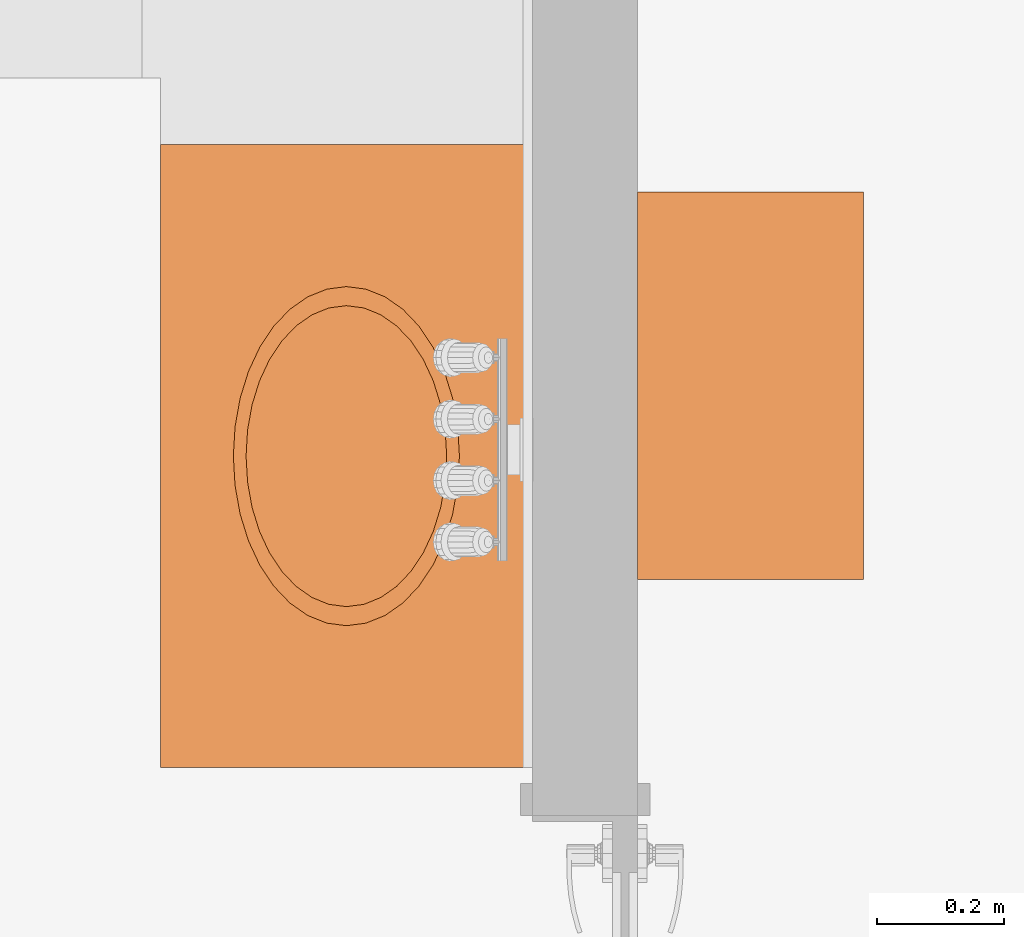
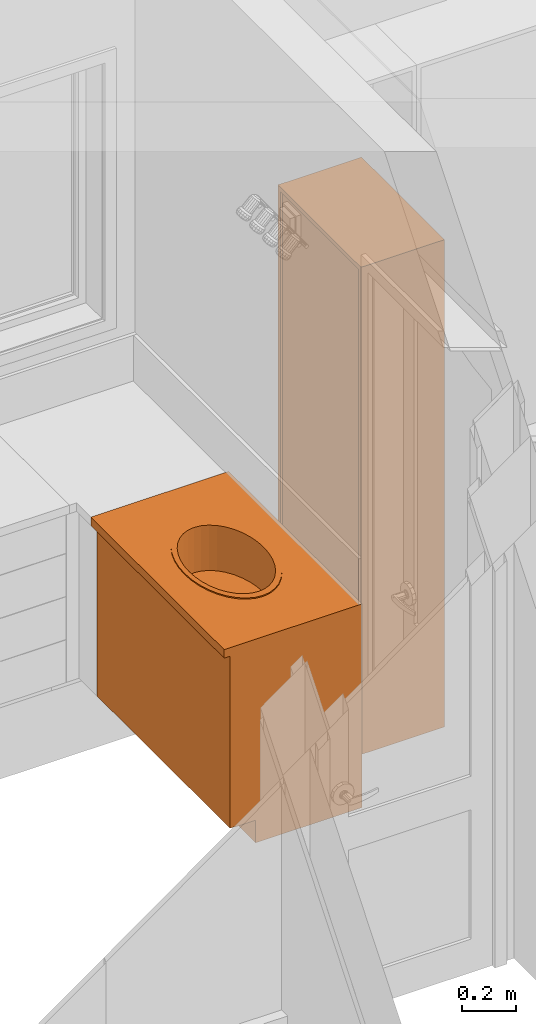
# One storey, part 70 of 77: 2 proxies.
"""IFC2X3 building model written with IfcOpenShell, lengths in inches."""

from ifc_helpers import new_model, entity, si_unit, converted_unit, derived_unit, money_unit, direction, frame, origin_with_axes, place, context, subcontext, project, spatial, open_shell, faceted_brep, surface_model, type_object, element, save


model = new_model("IFC2X3")

# Units and contexts
model_context = context("Model", 3, precision=0.000393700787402, world=origin_with_axes(), true_north=direction((0.0, 1.0)))
body_context = subcontext(model_context, "Body", "Model", "MODEL_VIEW")
ifc_project = project(units=[converted_unit("LENGTHUNIT", "INCH", entity("IfcPositiveLengthMeasure", 0.0254), si_unit("LENGTHUNIT", "METRE"), dimensions=[1, 0, 0, 0, 0, 0, 0]), converted_unit("AREAUNIT", "SQUARE_FOOT", entity("IfcPositiveLengthMeasure", 0.09290304), si_unit("AREAUNIT", "SQUARE_METRE"), dimensions=[2, 0, 0, 0, 0, 0, 0]), si_unit("PLANEANGLEUNIT", "RADIAN"), si_unit("SOLIDANGLEUNIT", "STERADIAN"), money_unit("USD"), converted_unit("TIMEUNIT", "Year", entity("IfcTimeMeasure", 31556926.0), si_unit("TIMEUNIT", "SECOND"), dimensions=[0, 0, 1, 0, 0, 0, 0]), si_unit("MASSUNIT", "GRAM", prefix="KILO"), si_unit("THERMODYNAMICTEMPERATUREUNIT", "DEGREE_CELSIUS"), si_unit("LUMINOUSINTENSITYUNIT", "LUMEN"), si_unit("ENERGYUNIT", "JOULE", prefix="MEGA"), derived_unit("THERMALCONDUCTANCEUNIT", [(si_unit("POWERUNIT", "WATT"), 1), (si_unit("LENGTHUNIT", "METRE"), -1), (si_unit("THERMODYNAMICTEMPERATUREUNIT", "KELVIN"), -1)]), derived_unit("SPECIFICHEATCAPACITYUNIT", [(si_unit("ENERGYUNIT", "JOULE"), 1), (si_unit("MASSUNIT", "GRAM", prefix="KILO"), -1), (si_unit("THERMODYNAMICTEMPERATUREUNIT", "KELVIN"), -1)]), derived_unit("MASSDENSITYUNIT", [(si_unit("MASSUNIT", "GRAM", prefix="KILO"), 1), (si_unit("VOLUMEUNIT", "CUBIC_METRE"), -1)])], contexts=[model_context])

# Site, building, storey
site_placement = place(None, origin_with_axes())
site = spatial("IfcSite", under=ifc_project, at=site_placement, Name="Site", CompositionType="ELEMENT")
building_placement = place(site_placement, origin_with_axes())
building = spatial("IfcBuilding", under=site, at=building_placement, Name="Building", CompositionType="ELEMENT")
storey_placement = place(building_placement, frame((0.0, 0.0, 127.952755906), z_axis=(0.0, 0.0, 1.0), x_axis=(1.0, 0.0, 0.0)))
storey = spatial("IfcBuildingStorey", under=building, at=storey_placement, Name="Second Floor", CompositionType="ELEMENT", Elevation=127.953)

# Proxies
building_element_proxy_type_1 = type_object("IfcBuildingElementProxyType", Name="Base Cabinet Block 25", PredefinedType="NOTDEFINED")
proxy_1_placement = place(storey_placement, frame((571.489644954, 555.816573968, 0.0), z_axis=(0.0, 0.0, 1.0), x_axis=(0.0, -1.0, 0.0)))
element("IfcBuildingElementProxy", 1, at=proxy_1_placement, inside=storey, type_object=building_element_proxy_type_1, Name="FU - 025", context=body_context, shape_type="SurfaceModel", body=[
    surface_model("IfcShellBasedSurfaceModel", [(28.6102362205, -11.5413385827, 28.1456692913), (28.4686612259, -10.4625321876, 28.1456692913), (28.4686612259, -10.4625321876, 35.9488188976), (28.6102362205, -11.5413385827, 35.9488188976), (28.4686612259, -12.6201449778, 28.1456692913), (28.0482379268, -13.6661723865, 28.1456692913), (27.3617406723, -14.6476377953, 28.1456692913), (26.4300283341, -15.5347198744, 28.1456692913), (25.2814105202, -16.3004650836, 28.1456692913), (23.9507874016, -16.9216066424, 28.1456692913), (22.4785892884, -17.3792714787, 28.1456692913), (20.9095481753, -17.6595536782, 28.1456692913), (19.2913385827, -17.7539370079, 28.1456692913), (17.67312899, -17.6595536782, 28.1456692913), (16.104087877, -17.3792714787, 28.1456692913), (14.6318897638, -16.9216066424, 28.1456692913), (13.3012666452, -16.3004650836, 28.1456692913), (12.1526488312, -15.5347198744, 28.1456692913), (11.2209364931, -14.6476377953, 28.1456692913), (10.5344392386, -13.6661723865, 28.1456692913), (10.1140159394, -12.6201449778, 28.1456692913), (9.97244094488, -11.5413385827, 28.1456692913), (10.1140159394, -10.4625321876, 28.1456692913), (10.5344392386, -9.41650477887, 28.1456692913), (11.2209364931, -8.43503937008, 28.1456692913), (12.1526488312, -7.547957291, 28.1456692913), (13.3012666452, -6.78221208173, 28.1456692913), (14.6318897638, -6.16107052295, 28.1456692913), (16.104087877, -5.70340568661, 28.1456692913), (17.67312899, -5.42312348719, 28.1456692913), (19.2913385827, -5.32874015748, 28.1456692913), (20.9095481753, -5.42312348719, 28.1456692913), (22.4785892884, -5.70340568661, 28.1456692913), (23.9507874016, -6.16107052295, 28.1456692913), (25.2814105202, -6.78221208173, 28.1456692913), (26.4300283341, -7.547957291, 28.1456692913), (27.3617406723, -8.43503937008, 28.1456692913), (28.0482379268, -9.41650477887, 28.1456692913), (28.0482379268, -9.41650477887, 35.9488188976), (28.4686612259, -12.6201449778, 35.9488188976), (28.0482379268, -13.6661723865, 35.9488188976), (27.3617406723, -14.6476377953, 35.9488188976), (26.4300283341, -15.5347198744, 35.9488188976), (25.2814105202, -16.3004650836, 35.9488188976), (23.9507874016, -16.9216066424, 35.9488188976), (22.4785892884, -17.3792714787, 35.9488188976), (20.9095481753, -17.6595536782, 35.9488188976), (19.2913385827, -17.7539370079, 35.9488188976), (17.67312899, -17.6595536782, 35.9488188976), (16.104087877, -17.3792714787, 35.9488188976), (14.6318897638, -16.9216066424, 35.9488188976), (13.3012666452, -16.3004650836, 35.9488188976), (12.1526488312, -15.5347198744, 35.9488188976), (11.2209364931, -14.6476377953, 35.9488188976), (10.5344392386, -13.6661723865, 35.9488188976), (10.1140159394, -12.6201449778, 35.9488188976), (9.97244094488, -11.5413385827, 35.9488188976), (10.1140159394, -10.4625321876, 35.9488188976), (10.5344392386, -9.41650477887, 35.9488188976), (11.2209364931, -8.43503937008, 35.9488188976), (12.1526488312, -7.547957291, 35.9488188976), (13.3012666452, -6.78221208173, 35.9488188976), (14.6318897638, -6.16107052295, 35.9488188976), (16.104087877, -5.70340568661, 35.9488188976), (17.67312899, -5.42312348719, 35.9488188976), (19.2913385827, -5.32874015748, 35.9488188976), (20.9095481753, -5.42312348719, 35.9488188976), (22.4785892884, -5.70340568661, 35.9488188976), (23.9507874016, -6.16107052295, 35.9488188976), (25.2814105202, -6.78221208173, 35.9488188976), (26.4300283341, -7.547957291, 35.9488188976), (27.3617406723, -8.43503937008, 35.9488188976)], [open_shell([[[0, 1, 2, 3]], [[0, 4, 5, 6, 7, 8, 9, 10, 11, 12, 13, 14, 15, 16, 17, 18, 19, 20, 21, 22, 23, 24, 25, 26, 27, 28, 29, 30, 31, 32, 33, 34, 35, 36, 37, 1]], [[1, 37, 38, 2]], [[4, 0, 3, 39]], [[5, 4, 39, 40]], [[6, 5, 40, 41]], [[7, 6, 41, 42]], [[8, 7, 42, 43]], [[9, 8, 43, 44]], [[10, 9, 44, 45]], [[11, 10, 45, 46]], [[12, 11, 46, 47]], [[13, 12, 47, 48]], [[14, 13, 48, 49]], [[15, 14, 49, 50]], [[16, 15, 50, 51]], [[17, 16, 51, 52]], [[18, 17, 52, 53]], [[19, 18, 53, 54]], [[20, 19, 54, 55]], [[21, 20, 55, 56]], [[22, 21, 56, 57]], [[23, 22, 57, 58]], [[24, 23, 58, 59]], [[25, 24, 59, 60]], [[26, 25, 60, 61]], [[27, 26, 61, 62]], [[28, 27, 62, 63]], [[29, 28, 63, 64]], [[30, 29, 64, 65]], [[31, 30, 65, 66]], [[32, 31, 66, 67]], [[33, 32, 67, 68]], [[34, 33, 68, 69]], [[35, 34, 69, 70]], [[36, 35, 70, 71]], [[37, 36, 71, 38]]])]),
    faceted_brep([(29.7913385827, -11.5413385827, 35.9488188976), (29.6318199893, -10.325801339, 35.9488188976), (29.6318199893, -10.325801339, 36.1456692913), (29.7913385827, -11.5413385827, 36.1456692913), (29.6318199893, -12.7568758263, 35.9488188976), (29.1581111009, -13.935479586, 35.9488188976), (28.3846053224, -15.0413385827, 35.9488188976), (27.3348052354, -16.0408518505, 35.9488188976), (26.0406084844, -16.9036496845, 35.9488188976), (24.5413385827, -17.6035164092, 35.9488188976), (22.8825500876, -18.1191869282, 35.9488188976), (21.1146444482, -18.4349928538, 35.9488188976), (19.2913385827, -18.5413385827, 35.9488188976), (17.4680327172, -18.4349928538, 35.9488188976), (15.7001270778, -18.1191869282, 35.9488188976), (14.0413385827, -17.6035164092, 35.9488188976), (12.542068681, -16.9036496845, 35.9488188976), (11.2478719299, -16.0408518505, 35.9488188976), (10.1980718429, -15.0413385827, 35.9488188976), (9.42456606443, -13.935479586, 35.9488188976), (8.95085717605, -12.7568758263, 35.9488188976), (8.79133858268, -11.5413385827, 35.9488188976), (8.95085717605, -10.325801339, 35.9488188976), (9.42456606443, -9.1471975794, 35.9488188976), (10.1980718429, -8.04133858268, 35.9488188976), (11.2478719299, -7.04182531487, 35.9488188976), (12.542068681, -6.17902748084, 35.9488188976), (14.0413385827, -5.47916075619, 35.9488188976), (15.7001270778, -4.96349023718, 35.9488188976), (17.4680327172, -4.64768431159, 35.9488188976), (19.2913385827, -4.54133858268, 35.9488188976), (21.1146444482, -4.64768431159, 35.9488188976), (22.8825500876, -4.96349023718, 35.9488188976), (24.5413385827, -5.47916075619, 35.9488188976), (26.0406084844, -6.17902748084, 35.9488188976), (27.3348052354, -7.04182531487, 35.9488188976), (28.3846053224, -8.04133858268, 35.9488188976), (29.1581111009, -9.1471975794, 35.9488188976), (28.6102362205, -11.5413385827, 35.9488188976), (28.4686612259, -10.4625321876, 35.9488188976), (28.0482379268, -9.41650477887, 35.9488188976), (27.3617406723, -8.43503937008, 35.9488188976), (26.4300283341, -7.547957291, 35.9488188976), (25.2814105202, -6.78221208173, 35.9488188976), (23.9507874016, -6.16107052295, 35.9488188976), (22.4785892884, -5.70340568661, 35.9488188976), (20.9095481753, -5.42312348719, 35.9488188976), (19.2913385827, -5.32874015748, 35.9488188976), (17.67312899, -5.42312348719, 35.9488188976), (16.104087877, -5.70340568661, 35.9488188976), (14.6318897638, -6.16107052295, 35.9488188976), (13.3012666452, -6.78221208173, 35.9488188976), (12.1526488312, -7.547957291, 35.9488188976), (11.2209364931, -8.43503937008, 35.9488188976), (10.5344392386, -9.41650477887, 35.9488188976), (10.1140159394, -10.4625321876, 35.9488188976), (9.97244094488, -11.5413385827, 35.9488188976), (10.1140159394, -12.6201449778, 35.9488188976), (10.5344392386, -13.6661723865, 35.9488188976), (11.2209364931, -14.6476377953, 35.9488188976), (12.1526488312, -15.5347198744, 35.9488188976), (13.3012666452, -16.3004650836, 35.9488188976), (14.6318897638, -16.9216066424, 35.9488188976), (16.104087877, -17.3792714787, 35.9488188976), (17.67312899, -17.6595536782, 35.9488188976), (19.2913385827, -17.7539370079, 35.9488188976), (20.9095481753, -17.6595536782, 35.9488188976), (22.4785892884, -17.3792714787, 35.9488188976), (23.9507874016, -16.9216066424, 35.9488188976), (25.2814105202, -16.3004650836, 35.9488188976), (26.4300283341, -15.5347198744, 35.9488188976), (27.3617406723, -14.6476377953, 35.9488188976), (28.0482379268, -13.6661723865, 35.9488188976), (28.4686612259, -12.6201449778, 35.9488188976), (29.1581111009, -9.1471975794, 36.1456692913), (28.3846053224, -8.04133858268, 36.1456692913), (27.3348052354, -7.04182531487, 36.1456692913), (26.0406084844, -6.17902748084, 36.1456692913), (24.5413385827, -5.47916075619, 36.1456692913), (22.8825500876, -4.96349023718, 36.1456692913), (21.1146444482, -4.64768431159, 36.1456692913), (19.2913385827, -4.54133858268, 36.1456692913), (17.4680327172, -4.64768431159, 36.1456692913), (15.7001270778, -4.96349023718, 36.1456692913), (14.0413385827, -5.47916075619, 36.1456692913), (12.542068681, -6.17902748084, 36.1456692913), (11.2478719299, -7.04182531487, 36.1456692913), (10.1980718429, -8.04133858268, 36.1456692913), (9.42456606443, -9.1471975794, 36.1456692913), (8.95085717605, -10.325801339, 36.1456692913), (8.79133858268, -11.5413385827, 36.1456692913), (8.95085717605, -12.7568758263, 36.1456692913), (9.42456606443, -13.935479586, 36.1456692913), (10.1980718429, -15.0413385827, 36.1456692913), (11.2478719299, -16.0408518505, 36.1456692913), (12.542068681, -16.9036496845, 36.1456692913), (14.0413385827, -17.6035164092, 36.1456692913), (15.7001270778, -18.1191869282, 36.1456692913), (17.4680327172, -18.4349928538, 36.1456692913), (19.2913385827, -18.5413385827, 36.1456692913), (21.1146444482, -18.4349928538, 36.1456692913), (22.8825500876, -18.1191869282, 36.1456692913), (24.5413385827, -17.6035164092, 36.1456692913), (26.0406084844, -16.9036496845, 36.1456692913), (27.3348052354, -16.0408518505, 36.1456692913), (28.3846053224, -15.0413385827, 36.1456692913), (29.1581111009, -13.935479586, 36.1456692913), (29.6318199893, -12.7568758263, 36.1456692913), (28.6102362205, -11.5413385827, 36.1456692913), (28.4686612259, -12.6201449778, 36.1456692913), (28.0482379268, -13.6661723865, 36.1456692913), (27.3617406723, -14.6476377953, 36.1456692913), (26.4300283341, -15.5347198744, 36.1456692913), (25.2814105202, -16.3004650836, 36.1456692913), (23.9507874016, -16.9216066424, 36.1456692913), (22.4785892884, -17.3792714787, 36.1456692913), (20.9095481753, -17.6595536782, 36.1456692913), (19.2913385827, -17.7539370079, 36.1456692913), (17.67312899, -17.6595536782, 36.1456692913), (16.104087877, -17.3792714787, 36.1456692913), (14.6318897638, -16.9216066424, 36.1456692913), (13.3012666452, -16.3004650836, 36.1456692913), (12.1526488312, -15.5347198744, 36.1456692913), (11.2209364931, -14.6476377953, 36.1456692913), (10.5344392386, -13.6661723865, 36.1456692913), (10.1140159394, -12.6201449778, 36.1456692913), (9.97244094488, -11.5413385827, 36.1456692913), (10.1140159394, -10.4625321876, 36.1456692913), (10.5344392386, -9.41650477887, 36.1456692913), (11.2209364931, -8.43503937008, 36.1456692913), (12.1526488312, -7.547957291, 36.1456692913), (13.3012666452, -6.78221208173, 36.1456692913), (14.6318897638, -6.16107052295, 36.1456692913), (16.104087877, -5.70340568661, 36.1456692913), (17.67312899, -5.42312348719, 36.1456692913), (19.2913385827, -5.32874015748, 36.1456692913), (20.9095481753, -5.42312348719, 36.1456692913), (22.4785892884, -5.70340568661, 36.1456692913), (23.9507874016, -6.16107052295, 36.1456692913), (25.2814105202, -6.78221208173, 36.1456692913), (26.4300283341, -7.547957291, 36.1456692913), (27.3617406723, -8.43503937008, 36.1456692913), (28.0482379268, -9.41650477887, 36.1456692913), (28.4686612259, -10.4625321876, 36.1456692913)], [[[0, 1, 2, 3]], [[0, 4, 5, 6, 7, 8, 9, 10, 11, 12, 13, 14, 15, 16, 17, 18, 19, 20, 21, 22, 23, 24, 25, 26, 27, 28, 29, 30, 31, 32, 33, 34, 35, 36, 37, 1], [38, 39, 40, 41, 42, 43, 44, 45, 46, 47, 48, 49, 50, 51, 52, 53, 54, 55, 56, 57, 58, 59, 60, 61, 62, 63, 64, 65, 66, 67, 68, 69, 70, 71, 72, 73]], [[1, 37, 74, 2]], [[3, 2, 74, 75, 76, 77, 78, 79, 80, 81, 82, 83, 84, 85, 86, 87, 88, 89, 90, 91, 92, 93, 94, 95, 96, 97, 98, 99, 100, 101, 102, 103, 104, 105, 106, 107], [108, 109, 110, 111, 112, 113, 114, 115, 116, 117, 118, 119, 120, 121, 122, 123, 124, 125, 126, 127, 128, 129, 130, 131, 132, 133, 134, 135, 136, 137, 138, 139, 140, 141, 142, 143]], [[4, 0, 3, 107]], [[5, 4, 107, 106]], [[6, 5, 106, 105]], [[7, 6, 105, 104]], [[8, 7, 104, 103]], [[9, 8, 103, 102]], [[10, 9, 102, 101]], [[11, 10, 101, 100]], [[12, 11, 100, 99]], [[13, 12, 99, 98]], [[14, 13, 98, 97]], [[15, 14, 97, 96]], [[16, 15, 96, 95]], [[17, 16, 95, 94]], [[18, 17, 94, 93]], [[19, 18, 93, 92]], [[20, 19, 92, 91]], [[21, 20, 91, 90]], [[22, 21, 90, 89]], [[23, 22, 89, 88]], [[24, 23, 88, 87]], [[25, 24, 87, 86]], [[26, 25, 86, 85]], [[27, 26, 85, 84]], [[28, 27, 84, 83]], [[29, 28, 83, 82]], [[30, 29, 82, 81]], [[31, 30, 81, 80]], [[32, 31, 80, 79]], [[33, 32, 79, 78]], [[34, 33, 78, 77]], [[35, 34, 77, 76]], [[36, 35, 76, 75]], [[37, 36, 75, 74]], [[39, 38, 108, 143]], [[40, 39, 143, 142]], [[41, 40, 142, 141]], [[42, 41, 141, 140]], [[43, 42, 140, 139]], [[44, 43, 139, 138]], [[45, 44, 138, 137]], [[46, 45, 137, 136]], [[47, 46, 136, 135]], [[48, 47, 135, 134]], [[49, 48, 134, 133]], [[50, 49, 133, 132]], [[51, 50, 132, 131]], [[52, 51, 131, 130]], [[53, 52, 130, 129]], [[54, 53, 129, 128]], [[55, 54, 128, 127]], [[56, 55, 127, 126]], [[57, 56, 126, 125]], [[58, 57, 125, 124]], [[59, 58, 124, 123]], [[60, 59, 123, 122]], [[61, 60, 122, 121]], [[62, 61, 121, 120]], [[63, 62, 120, 119]], [[64, 63, 119, 118]], [[65, 64, 118, 117]], [[66, 65, 117, 116]], [[67, 66, 116, 115]], [[68, 67, 115, 114]], [[69, 68, 114, 113]], [[70, 69, 113, 112]], [[71, 70, 112, 111]], [[72, 71, 111, 110]], [[73, 72, 110, 109]], [[38, 73, 109, 108]]]),
    faceted_brep([(0.0, 0.0, 34.4488188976), (38.5826771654, 0.0, 34.4488188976), (38.5826771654, -23.0472440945, 34.4488188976), (0.0, -23.0472440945, 34.4488188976), (28.4181956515, -13.6661723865, 34.4488188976), (28.8563808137, -12.6201449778, 34.4488188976), (29.0039370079, -11.5413385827, 34.4488188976), (28.8563808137, -10.4625321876, 34.4488188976), (28.4181956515, -9.41650477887, 34.4488188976), (27.7026955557, -8.43503937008, 34.4488188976), (26.7316206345, -7.547957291, 34.4488188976), (25.5344765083, -6.78221208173, 34.4488188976), (24.1476377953, -6.16107052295, 34.4488188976), (22.6132428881, -5.70340568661, 34.4488188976), (20.9779135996, -5.42312348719, 34.4488188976), (19.2913385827, -5.32874015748, 34.4488188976), (17.6047635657, -5.42312348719, 34.4488188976), (15.9694342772, -5.70340568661, 34.4488188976), (14.4350393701, -6.16107052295, 34.4488188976), (13.0482006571, -6.78221208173, 34.4488188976), (11.8510565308, -7.547957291, 34.4488188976), (10.8799816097, -8.43503937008, 34.4488188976), (10.1644815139, -9.41650477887, 34.4488188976), (9.72629635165, -10.4625321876, 34.4488188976), (9.57874015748, -11.5413385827, 34.4488188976), (9.72629635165, -12.6201449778, 34.4488188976), (10.1644815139, -13.6661723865, 34.4488188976), (10.8799816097, -14.6476377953, 34.4488188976), (11.8510565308, -15.5347198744, 34.4488188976), (13.0482006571, -16.3004650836, 34.4488188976), (14.4350393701, -16.9216066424, 34.4488188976), (15.9694342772, -17.3792714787, 34.4488188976), (17.6047635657, -17.6595536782, 34.4488188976), (19.2913385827, -17.7539370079, 34.4488188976), (20.9779135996, -17.6595536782, 34.4488188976), (22.6132428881, -17.3792714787, 34.4488188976), (24.1476377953, -16.9216066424, 34.4488188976), (25.5344765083, -16.3004650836, 34.4488188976), (26.7316206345, -15.5347198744, 34.4488188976), (27.7026955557, -14.6476377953, 34.4488188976), (0.0, 0.0, 35.9488188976), (38.5826771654, 0.0, 35.9488188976), (38.5826771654, -23.0472440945, 35.9488188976), (0.0, -23.0472440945, 35.9488188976), (28.4181956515, -13.6661723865, 35.9488188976), (28.8563808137, -12.6201449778, 35.9488188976), (29.0039370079, -11.5413385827, 35.9488188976), (28.8563808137, -10.4625321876, 35.9488188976), (28.4181956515, -9.41650477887, 35.9488188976), (27.7026955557, -8.43503937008, 35.9488188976), (26.7316206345, -7.547957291, 35.9488188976), (25.5344765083, -6.78221208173, 35.9488188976), (24.1476377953, -6.16107052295, 35.9488188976), (22.6132428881, -5.70340568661, 35.9488188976), (20.9779135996, -5.42312348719, 35.9488188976), (19.2913385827, -5.32874015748, 35.9488188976), (17.6047635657, -5.42312348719, 35.9488188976), (15.9694342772, -5.70340568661, 35.9488188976), (14.4350393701, -6.16107052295, 35.9488188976), (13.0482006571, -6.78221208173, 35.9488188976), (11.8510565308, -7.547957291, 35.9488188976), (10.8799816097, -8.43503937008, 35.9488188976), (10.1644815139, -9.41650477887, 35.9488188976), (9.72629635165, -10.4625321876, 35.9488188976), (9.57874015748, -11.5413385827, 35.9488188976), (9.72629635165, -12.6201449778, 35.9488188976), (10.1644815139, -13.6661723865, 35.9488188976), (10.8799816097, -14.6476377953, 35.9488188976), (11.8510565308, -15.5347198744, 35.9488188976), (13.0482006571, -16.3004650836, 35.9488188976), (14.4350393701, -16.9216066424, 35.9488188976), (15.9694342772, -17.3792714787, 35.9488188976), (17.6047635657, -17.6595536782, 35.9488188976), (19.2913385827, -17.7539370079, 35.9488188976), (20.9779135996, -17.6595536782, 35.9488188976), (22.6132428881, -17.3792714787, 35.9488188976), (24.1476377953, -16.9216066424, 35.9488188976), (25.5344765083, -16.3004650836, 35.9488188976), (26.7316206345, -15.5347198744, 35.9488188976), (27.7026955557, -14.6476377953, 35.9488188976)], [[[0, 1, 2, 3], [4, 5, 6, 7, 8, 9, 10, 11, 12, 13, 14, 15, 16, 17, 18, 19, 20, 21, 22, 23, 24, 25, 26, 27, 28, 29, 30, 31, 32, 33, 34, 35, 36, 37, 38, 39]], [[0, 40, 41, 1]], [[1, 41, 42, 2]], [[2, 42, 43, 3]], [[3, 43, 40, 0]], [[44, 45, 5, 4]], [[45, 46, 6, 5]], [[46, 47, 7, 6]], [[47, 48, 8, 7]], [[48, 49, 9, 8]], [[49, 50, 10, 9]], [[50, 51, 11, 10]], [[51, 52, 12, 11]], [[52, 53, 13, 12]], [[53, 54, 14, 13]], [[54, 55, 15, 14]], [[55, 56, 16, 15]], [[56, 57, 17, 16]], [[57, 58, 18, 17]], [[58, 59, 19, 18]], [[59, 60, 20, 19]], [[60, 61, 21, 20]], [[61, 62, 22, 21]], [[62, 63, 23, 22]], [[63, 64, 24, 23]], [[64, 65, 25, 24]], [[65, 66, 26, 25]], [[66, 67, 27, 26]], [[67, 68, 28, 27]], [[68, 69, 29, 28]], [[69, 70, 30, 29]], [[70, 71, 31, 30]], [[71, 72, 32, 31]], [[72, 73, 33, 32]], [[73, 74, 34, 33]], [[74, 75, 35, 34]], [[75, 76, 36, 35]], [[76, 77, 37, 36]], [[77, 78, 38, 37]], [[78, 79, 39, 38]], [[79, 44, 4, 39]], [[42, 41, 40, 43], [48, 47, 46, 45, 44, 79, 78, 77, 76, 75, 74, 73, 72, 71, 70, 69, 68, 67, 66, 65, 64, 63, 62, 61, 60, 59, 58, 57, 56, 55, 54, 53, 52, 51, 50, 49]]]),
    faceted_brep([(0.0393700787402, -21.2972440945, 4.03937007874), (19.2519685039, -21.2972440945, 4.03937007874), (19.2519685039, -22.0472440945, 4.03937007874), (0.0393700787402, -22.0472440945, 4.03937007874), (0.0393700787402, -21.2972440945, 34.4094488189), (19.2519685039, -21.2972440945, 34.4094488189), (19.2519685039, -22.0472440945, 34.4094488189), (0.0393700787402, -22.0472440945, 34.4094488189)], [[[0, 1, 2, 3]], [[0, 4, 5, 1]], [[1, 5, 6, 2]], [[3, 2, 6, 7]], [[4, 0, 3, 7]], [[5, 4, 7, 6]]]),
    faceted_brep([(38.5433070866, -21.2972440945, 4.03937007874), (38.5433070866, -22.0472440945, 4.03937007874), (19.3307086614, -22.0472440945, 4.03937007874), (19.3307086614, -21.2972440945, 4.03937007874), (38.5433070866, -21.2972440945, 34.4094488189), (38.5433070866, -22.0472440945, 34.4094488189), (19.3307086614, -22.0472440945, 34.4094488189), (19.3307086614, -21.2972440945, 34.4094488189)], [[[0, 1, 2, 3]], [[4, 5, 1, 0]], [[1, 5, 6, 2]], [[3, 2, 6, 7]], [[0, 3, 7, 4]], [[7, 6, 5, 4]]]),
    faceted_brep([(0.75, -21.2972440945, 4.0), (37.8326771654, -21.2972440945, 4.0), (37.8326771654, -21.2972440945, 4.75), (0.75, -21.2972440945, 4.75), (0.75, 0.0, 4.0), (37.8326771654, 0.0, 4.0), (37.8326771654, 0.0, 4.75), (0.75, 0.0, 4.75)], [[[0, 1, 2, 3]], [[0, 4, 5, 1]], [[1, 5, 6, 2]], [[3, 2, 6, 7]], [[4, 0, 3, 7]], [[5, 4, 7, 6]]]),
    faceted_brep([(0.75, -21.2972440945, 33.6988188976), (0.75, -18.9350393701, 33.6988188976), (37.8326771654, -18.9350393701, 33.6988188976), (37.8326771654, -21.2972440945, 33.6988188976), (0.75, -21.2972440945, 34.4488188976), (0.75, -18.9350393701, 34.4488188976), (37.8326771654, -18.9350393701, 34.4488188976), (37.8326771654, -21.2972440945, 34.4488188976)], [[[0, 1, 2, 3]], [[0, 4, 5, 1]], [[1, 5, 6, 2]], [[3, 2, 6, 7]], [[4, 0, 3, 7]], [[5, 4, 7, 6]]]),
    faceted_brep([(37.8326771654, 0.0, 33.6988188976), (37.8326771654, -2.36220472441, 33.6988188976), (0.75, -2.36220472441, 33.6988188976), (0.75, 0.0, 33.6988188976), (37.8326771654, 0.0, 34.4488188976), (37.8326771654, -2.36220472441, 34.4488188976), (0.75, -2.36220472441, 34.4488188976), (0.75, 0.0, 34.4488188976)], [[[0, 1, 2, 3]], [[0, 4, 5, 1]], [[1, 5, 6, 2]], [[3, 2, 6, 7]], [[4, 0, 3, 7]], [[5, 4, 7, 6]]]),
    faceted_brep([(0.0, 0.0, 4.0), (0.0, -21.2972440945, 4.0), (0.0, -21.2972440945, 34.4488188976), (0.0, 0.0, 34.4488188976), (0.75, 0.0, 4.0), (0.75, -21.2972440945, 4.0), (0.75, -21.2972440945, 34.4488188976), (0.75, 0.0, 34.4488188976)], [[[0, 1, 2, 3]], [[0, 4, 5, 1]], [[1, 5, 6, 2]], [[3, 2, 6, 7]], [[4, 0, 3, 7]], [[5, 4, 7, 6]]]),
    faceted_brep([(38.5826771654, -21.2972440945, 4.0), (38.5826771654, 0.0, 4.0), (38.5826771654, 0.0, 34.4488188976), (38.5826771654, -21.2972440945, 34.4488188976), (37.8326771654, -21.2972440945, 4.0), (37.8326771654, 0.0, 4.0), (37.8326771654, 0.0, 34.4488188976), (37.8326771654, -21.2972440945, 34.4488188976)], [[[0, 1, 2, 3]], [[0, 4, 5, 1]], [[1, 5, 6, 2]], [[3, 2, 6, 7]], [[4, 0, 3, 7]], [[5, 4, 7, 6]]]),
    faceted_brep([(37.8326771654, -0.375, 4.75), (0.75, -0.375, 4.75), (0.75, -0.375, 33.6988188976), (37.8326771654, -0.375, 33.6988188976), (37.8326771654, -0.75, 4.75), (0.75, -0.75, 4.75), (0.75, -0.75, 33.6988188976), (37.8326771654, -0.75, 33.6988188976)], [[[0, 1, 2, 3]], [[0, 4, 5, 1]], [[1, 5, 6, 2]], [[3, 2, 6, 7]], [[4, 0, 3, 7]], [[5, 4, 7, 6]]]),
    faceted_brep([(0.0, -17.7972440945, 0.0), (38.5826771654, -17.7972440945, 0.0), (38.5826771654, -17.7972440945, 4.0), (0.0, -17.7972440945, 4.0), (0.0, 0.0, 0.0), (38.5826771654, 0.0, 0.0), (38.5826771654, 0.0, 4.0), (0.0, 0.0, 4.0)], [[[0, 1, 2, 3]], [[0, 4, 5, 1]], [[1, 5, 6, 2]], [[3, 2, 6, 7]], [[4, 0, 3, 7]], [[5, 4, 7, 6]]]),
])
building_element_proxy_type_2 = type_object("IfcBuildingElementProxyType", Name="Standing Cabinet Block 25", PredefinedType="NOTDEFINED")
proxy_2_placement = place(storey_placement, frame((577.98964715, 528.872488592, 0.0), z_axis=(0.0, 0.0, 1.0), x_axis=(0.0, 1.0, 0.0)))
element("IfcBuildingElementProxy", 2, at=proxy_2_placement, inside=storey, type_object=building_element_proxy_type_2, Name="FU - 006", context=body_context, shape_type="Brep", body=[
    faceted_brep([(0.75, -13.9763779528, 72.656496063), (23.2657480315, -13.9763779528, 72.656496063), (23.2657480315, -13.9763779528, 73.406496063), (0.75, -13.9763779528, 73.406496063), (0.75, -0.75, 72.656496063), (23.2657480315, -0.75, 72.656496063), (23.2657480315, -0.75, 73.406496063), (0.75, -0.75, 73.406496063)], [[[0, 1, 2, 3]], [[0, 4, 5, 1]], [[1, 5, 6, 2]], [[3, 2, 6, 7]], [[4, 0, 3, 7]], [[5, 4, 7, 6]]]),
    faceted_brep([(0.75, -13.9763779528, 0.0), (23.2657480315, -13.9763779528, 0.0), (23.2657480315, -13.9763779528, 0.75), (0.75, -13.9763779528, 0.75), (0.75, 0.0, 0.0), (23.2657480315, 0.0, 0.0), (23.2657480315, 0.0, 0.75), (0.75, 0.0, 0.75)], [[[0, 1, 2, 3]], [[0, 4, 5, 1]], [[1, 5, 6, 2]], [[3, 2, 6, 7]], [[4, 0, 3, 7]], [[5, 4, 7, 6]]]),
    faceted_brep([(0.75, -13.9763779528, 85.2736220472), (23.2657480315, -13.9763779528, 85.2736220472), (23.2657480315, -13.9763779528, 86.0236220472), (0.75, -13.9763779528, 86.0236220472), (0.75, 0.0, 85.2736220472), (23.2657480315, 0.0, 85.2736220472), (23.2657480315, 0.0, 86.0236220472), (0.75, 0.0, 86.0236220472)], [[[0, 1, 2, 3]], [[0, 4, 5, 1]], [[1, 5, 6, 2]], [[3, 2, 6, 7]], [[4, 0, 3, 7]], [[5, 4, 7, 6]]]),
    faceted_brep([(0.0, 0.0, 0.0), (0.0, -13.9763779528, 0.0), (0.0, -13.9763779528, 86.0236220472), (0.0, 0.0, 86.0236220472), (0.75, 0.0, 0.0), (0.75, -13.9763779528, 0.0), (0.75, -13.9763779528, 86.0236220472), (0.75, 0.0, 86.0236220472)], [[[0, 1, 2, 3]], [[0, 4, 5, 1]], [[1, 5, 6, 2]], [[3, 2, 6, 7]], [[4, 0, 3, 7]], [[5, 4, 7, 6]]]),
    faceted_brep([(24.0157480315, -13.9763779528, 0.0), (24.0157480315, 0.0, 0.0), (24.0157480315, 0.0, 86.0236220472), (24.0157480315, -13.9763779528, 86.0236220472), (23.2657480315, -13.9763779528, 0.0), (23.2657480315, 0.0, 0.0), (23.2657480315, 0.0, 86.0236220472), (23.2657480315, -13.9763779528, 86.0236220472)], [[[0, 1, 2, 3]], [[0, 4, 5, 1]], [[1, 5, 6, 2]], [[3, 2, 6, 7]], [[4, 0, 3, 7]], [[5, 4, 7, 6]]]),
    faceted_brep([(23.2657480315, -0.375, 0.75), (0.75, -0.375, 0.75), (0.75, -0.375, 85.2736220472), (23.2657480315, -0.375, 85.2736220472), (23.2657480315, -0.75, 0.75), (0.75, -0.75, 0.75), (0.75, -0.75, 85.2736220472), (23.2657480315, -0.75, 85.2736220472)], [[[0, 1, 2, 3]], [[0, 4, 5, 1]], [[1, 5, 6, 2]], [[3, 2, 6, 7]], [[4, 0, 3, 7]], [[5, 4, 7, 6]]]),
])

save(model, "model.ifc")
